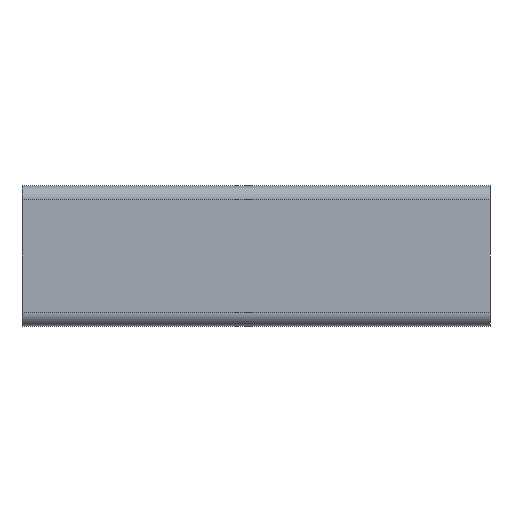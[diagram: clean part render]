
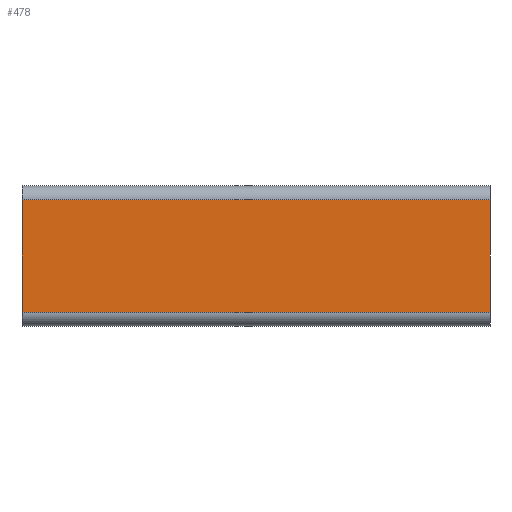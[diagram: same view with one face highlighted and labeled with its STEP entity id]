
A CAD part, left-side view. The second image highlights one B-rep face of the part: STEP entity #478.
In plain terms, the highlighted planar face has unit normal (-1, 0, 0).
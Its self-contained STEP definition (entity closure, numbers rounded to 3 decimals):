
#478=ADVANCED_FACE('',(#965),#966,.T.);
#965=FACE_OUTER_BOUND('',#1457,.T.);
#966=PLANE('',#1458);
#1457=EDGE_LOOP('',(#2850,#2851,#2852,#2853));
#1458=AXIS2_PLACEMENT_3D('',#2854,#2855,#2856);
#2850=ORIENTED_EDGE('',*,*,#3641,.T.);
#2851=ORIENTED_EDGE('',*,*,#3642,.F.);
#2852=ORIENTED_EDGE('',*,*,#3549,.T.);
#2853=ORIENTED_EDGE('',*,*,#3643,.T.);
#2854=CARTESIAN_POINT('',(-15.0,50.0,0.0));
#2855=DIRECTION('',(-1.0,0.0,0.0));
#2856=DIRECTION('',(0.0,0.0,-1.0));
#3549=EDGE_CURVE('',#4439,#4437,#4440,.T.);
#3641=EDGE_CURVE('',#4563,#4564,#4565,.T.);
#3642=EDGE_CURVE('',#4439,#4564,#4566,.T.);
#3643=EDGE_CURVE('',#4437,#4563,#4567,.T.);
#4437=VERTEX_POINT('',#5614);
#4439=VERTEX_POINT('',#5616);
#4440=LINE('',#5617,#5618);
#4563=VERTEX_POINT('',#5787);
#4564=VERTEX_POINT('',#5788);
#4565=LINE('',#5789,#5790);
#4566=LINE('',#5791,#5792);
#4567=LINE('',#5793,#5794);
#5614=CARTESIAN_POINT('',(-15.0,50.0,-12.0));
#5616=CARTESIAN_POINT('',(-15.0,50.0,12.0));
#5617=CARTESIAN_POINT('',(-15.0,50.0,12.0));
#5618=VECTOR('',#6486,1.0);
#5787=CARTESIAN_POINT('',(-15.0,-50.0,-12.0));
#5788=CARTESIAN_POINT('',(-15.0,-50.0,12.0));
#5789=CARTESIAN_POINT('',(-15.0,-50.0,12.0));
#5790=VECTOR('',#6578,1.0);
#5791=CARTESIAN_POINT('',(-15.0,50.0,12.0));
#5792=VECTOR('',#6579,1.0);
#5793=CARTESIAN_POINT('',(-15.0,50.0,-12.0));
#5794=VECTOR('',#6580,1.0);
#6486=DIRECTION('',(0.0,0.0,-1.0));
#6578=DIRECTION('',(0.0,0.0,1.0));
#6579=DIRECTION('',(0.0,-1.0,0.0));
#6580=DIRECTION('',(0.0,-1.0,0.0));
